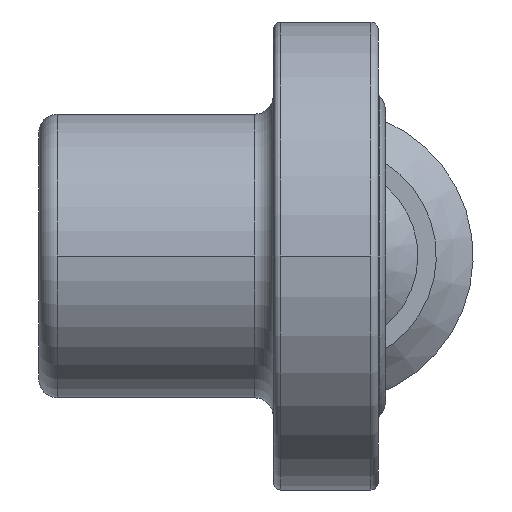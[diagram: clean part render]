
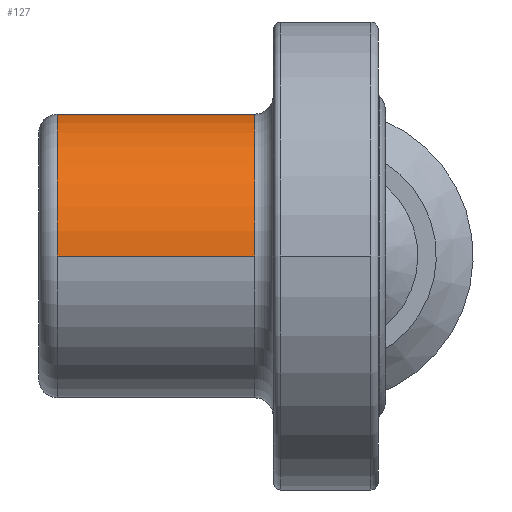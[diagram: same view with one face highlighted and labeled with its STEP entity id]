
A CAD part, left-side view. The second image highlights one B-rep face of the part: STEP entity #127.
In plain terms, the highlighted cylindrical face has radius 3.85 mm (diameter 7.7 mm), a partial arc.
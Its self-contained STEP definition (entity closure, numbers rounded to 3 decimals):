
#127=ADVANCED_FACE('',(#188),#189,.T.);
#188=FACE_OUTER_BOUND('',#307,.T.);
#189=CYLINDRICAL_SURFACE('',#308,3.85);
#307=EDGE_LOOP('',(#455,#456,#457,#458,#459,#460));
#308=AXIS2_PLACEMENT_3D('',#461,#462,#463);
#455=ORIENTED_EDGE('',*,*,#869,.F.);
#456=ORIENTED_EDGE('',*,*,#870,.T.);
#457=ORIENTED_EDGE('',*,*,#871,.T.);
#458=ORIENTED_EDGE('',*,*,#872,.F.);
#459=ORIENTED_EDGE('',*,*,#873,.F.);
#460=ORIENTED_EDGE('',*,*,#865,.F.);
#461=CARTESIAN_POINT('',(0.0,6.23,0.0));
#462=DIRECTION('',(0.0,-1.0,0.0));
#463=DIRECTION('',(1.0,0.0,0.0));
#865=EDGE_CURVE('',#1012,#1014,#1015,.T.);
#869=EDGE_CURVE('',#1021,#1012,#1022,.T.);
#870=EDGE_CURVE('',#1021,#1023,#1024,.T.);
#871=EDGE_CURVE('',#1023,#1025,#1026,.T.);
#872=EDGE_CURVE('',#1027,#1025,#1028,.T.);
#873=EDGE_CURVE('',#1014,#1027,#1029,.T.);
#1012=VERTEX_POINT('',#1264);
#1014=VERTEX_POINT('',#1266);
#1015=CIRCLE('',#1267,3.85);
#1021=VERTEX_POINT('',#1273);
#1022=LINE('',#1274,#1275);
#1023=VERTEX_POINT('',#1276);
#1024=CIRCLE('',#1277,3.85);
#1025=VERTEX_POINT('',#1278);
#1026=CIRCLE('',#1279,3.85);
#1027=VERTEX_POINT('',#1280);
#1028=LINE('',#1281,#1282);
#1029=CIRCLE('',#1283,3.85);
#1264=CARTESIAN_POINT('',(3.85,3.55,0.0));
#1266=CARTESIAN_POINT('',(0.,3.55,3.85));
#1267=AXIS2_PLACEMENT_3D('',#1576,#1577,#1578);
#1273=CARTESIAN_POINT('',(3.85,8.909,0.0));
#1274=CARTESIAN_POINT('',(3.85,6.23,0.));
#1275=VECTOR('',#1588,1.0);
#1276=CARTESIAN_POINT('',(0.,8.909,3.85));
#1277=AXIS2_PLACEMENT_3D('',#1589,#1590,#1591);
#1278=CARTESIAN_POINT('',(-3.85,8.909,0.));
#1279=AXIS2_PLACEMENT_3D('',#1592,#1593,#1594);
#1280=CARTESIAN_POINT('',(-3.85,3.55,0.));
#1281=CARTESIAN_POINT('',(-3.85,6.23,0.));
#1282=VECTOR('',#1595,1.0);
#1283=AXIS2_PLACEMENT_3D('',#1596,#1597,#1598);
#1576=CARTESIAN_POINT('',(0.0,3.55,0.0));
#1577=DIRECTION('',(0.0,-1.0,0.0));
#1578=DIRECTION('',(1.0,0.0,0.0));
#1588=DIRECTION('',(0.0,-1.0,0.0));
#1589=CARTESIAN_POINT('',(0.0,8.909,0.0));
#1590=DIRECTION('',(0.0,-1.0,0.0));
#1591=DIRECTION('',(1.0,0.0,0.0));
#1592=CARTESIAN_POINT('',(0.0,8.909,0.0));
#1593=DIRECTION('',(0.0,-1.0,0.0));
#1594=DIRECTION('',(1.0,0.0,0.0));
#1595=DIRECTION('',(0.0,1.0,0.0));
#1596=CARTESIAN_POINT('',(0.0,3.55,0.0));
#1597=DIRECTION('',(0.0,-1.0,0.0));
#1598=DIRECTION('',(1.0,0.0,0.0));
